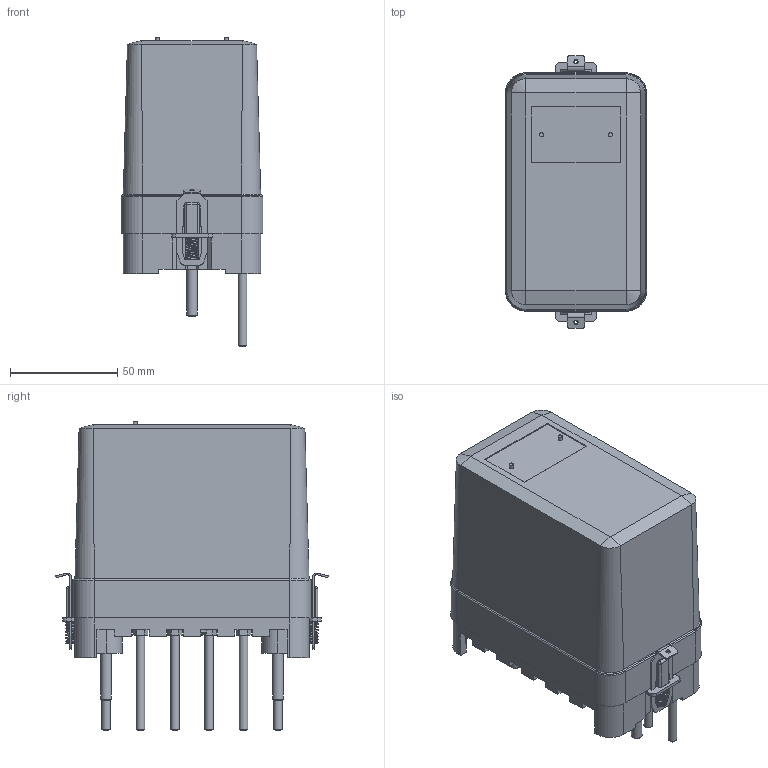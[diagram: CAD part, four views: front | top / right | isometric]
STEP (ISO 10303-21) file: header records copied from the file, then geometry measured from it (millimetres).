
FILE_DESCRIPTION(('STEP AP214'), '1');
FILE_NAME('ÐÑÂ-01-1 ç.ï.øï', '', ('UNSPECIFIED'), ('UNSPECIFIED'), 'ASCON STEP Converter 1.3', 'ASCON Math Kernel', '');
FILE_SCHEMA(('AUTOMOTIVE_DESIGN { 1 0 10303 214 3 1 1}'));
Length unit declared in the file: millimetre
Bounding box: 66 x 127 x 144 mm (x, y, z)
Volume: 137294.3 mm3; surface area: 101787.5 mm2
Topology: 1 solids, 1 shells, 878 faces, 2359 edges, 1497 vertices
Faces by surface type: plane 575, cylinder 205, torus 36, bspline 30, cone 26, sphere 6
Full cylindrical faces by diameter (mm): 1.9 x2, 2 x2, 3 x4, 3.2 x4, 3.242 x6, 3.4 x4, 3.5 x2, 4 x12, 5 x2, 5.5 x2, 6 x4, 9.5 x2
Entity records: 46190 total; most frequent: CARTESIAN_POINT 17584, ORIENTED_EDGE 4482, DIRECTION 4317, EDGE_CURVE 2241, LINE 1531, VECTOR 1531, VERTEX_POINT 1491, AXIS2_PLACEMENT_3D 1393
